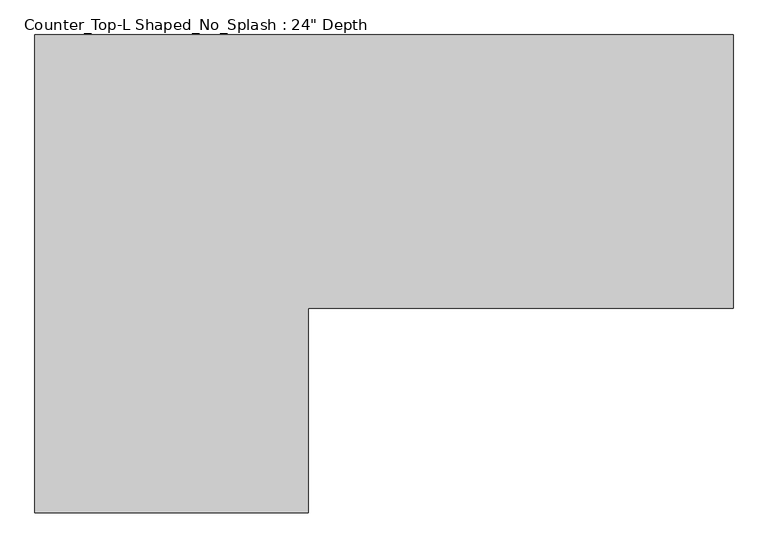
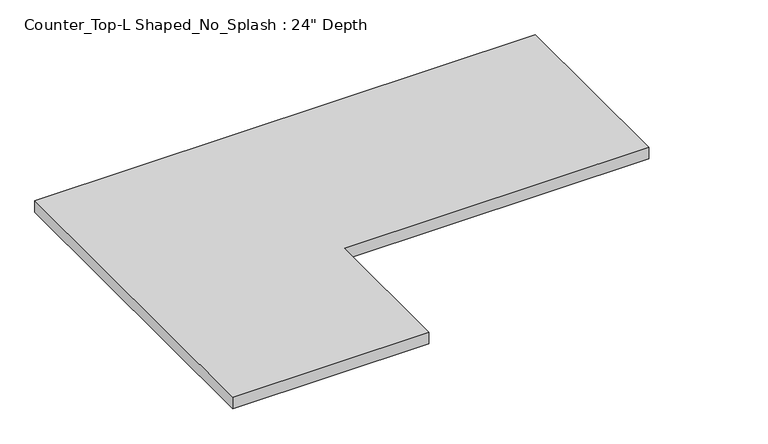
"""IFC4 building model written with IfcOpenShell, lengths in millimetres: furniture geometry."""

from ifc_helpers import new_model, si_unit, frame, origin, place, context, project, spatial, polyline, outline, extrude, source, transform, mapped, element, save


def furniture_d6879d98(model_context):
    return source(origin(), model_context, "Body", "SweptSolid", [
        extrude(outline(polyline([(355.6430019, 0.0), (355.6430019, -609.6), (-590.8622951, -609.6), (-590.8622951, -1065.012394), (-1200.4622951, -1065.012394), (-1200.4622951, 0.0), (355.6430019, 0.0)])), frame((0.0, 0.0, 876.3), z_axis=(0.0, 0.0, 1.0), x_axis=(1.0, 0.0, 0.0)), (0.0, 0.0, 1.0), 38.1),
    ])


if __name__ == "__main__":
    model = new_model("IFC4")
    model_context = context("Model", 3, world=origin())
    ifc_project = project(units=[si_unit("LENGTHUNIT", "METRE", prefix="MILLI")], contexts=[model_context])
    site = spatial("IfcSite", under=ifc_project)
    building = spatial("IfcBuilding", under=site)
    placement = place(None, origin())
    furniture_shape = furniture_d6879d98(model_context)
    element("IfcFurniture", 1, ObjectType="Counter_Top-L Shaped_No_Splash : 24\" Depth", at=placement, inside=building, context=model_context, shape_type="MappedRepresentation", body=[
        mapped(furniture_shape, transform((0.0, 0.0, 0.0), x_axis=(1.0, 0.0, 0.0), y_axis=(0.0, 1.0, 0.0), z_axis=(0.0, 0.0, 1.0))),
    ])
    save(model, "model.ifc")
